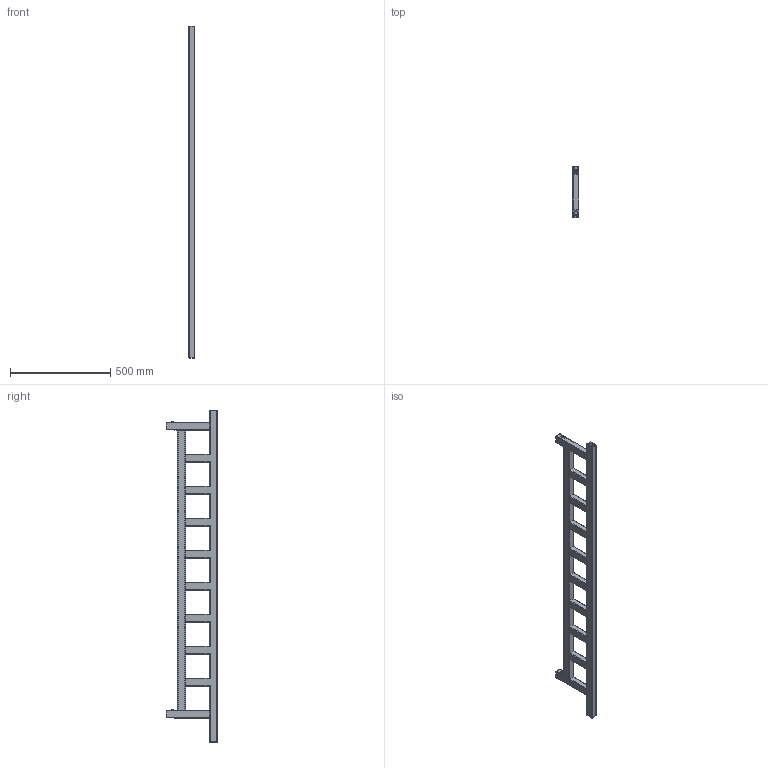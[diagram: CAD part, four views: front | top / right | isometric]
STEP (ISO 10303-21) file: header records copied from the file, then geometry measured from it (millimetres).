
FILE_DESCRIPTION((''),'2;1');
FILE_NAME('Z:\R\G\P\RGP102 - Grzejnik Easy 2012\Work\Inventor\Marketing\Modele AutoCAD\EAS-SD-1600-200 15.stp','2012-07-24T12:34:33',('PioRo'),(''),'Autodesk Inventor 2012','Autodesk Inventor 2012','');
FILE_SCHEMA(('AUTOMOTIVE_DESIGN { 1 0 10303 214 1 1 1 1 }'));
Length unit declared in the file: millimetre
Products named in the file (3): EAS-SD-1600-200 15; konsola MMT42
Assembly tree (3 placements, depth 2):
  EAS-SD-1600-200 15
    EAS-SD-1600-200 15
    konsola MMT42  x2
Bounding box: 30 x 255 x 1660 mm (x, y, z)
Volume: 5271355 mm3; surface area: 608709.5 mm2
Topology: 3 solids, 5 shells, 246 faces, 600 edges, 352 vertices
Faces by surface type: plane 130, cylinder 102, bspline 8, torus 4, cone 2
Full cylindrical faces by diameter (mm): 4.134 x2, 10 x2, 18.631 x2
Entity records: 6614 total; most frequent: CARTESIAN_POINT 1430, DIRECTION 1114, ORIENTED_EDGE 1038, EDGE_CURVE 519, AXIS2_PLACEMENT_3D 385, VECTOR 344, LINE 344, VERTEX_POINT 301
